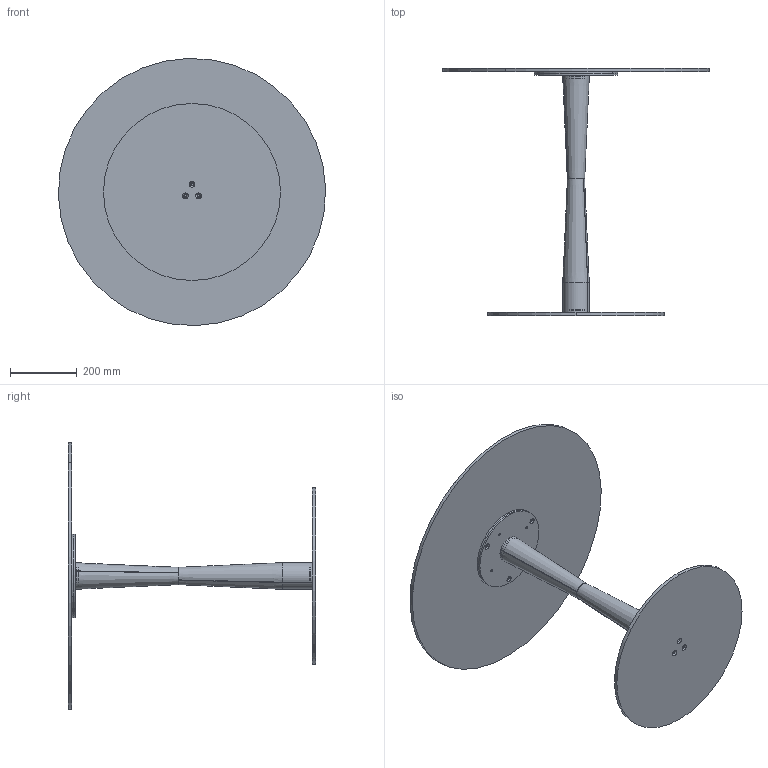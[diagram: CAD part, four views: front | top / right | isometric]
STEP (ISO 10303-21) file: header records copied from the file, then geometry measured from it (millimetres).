
FILE_DESCRIPTION (( 'STEP AP203' ), '1' );
FILE_NAME ('FI20G.STEP', '2024-08-08T08:01:20', ( '' ), ( '' ), 'SwSTEP 2.0', 'SolidWorks 2022', '' );
FILE_SCHEMA (( 'CONFIG_CONTROL_DESIGN' ));
Length unit declared in the file: millimetre
Products named in the file (10): FI20G; CBS000000BAS-00-BISTRO PIASTRA INFERIORE_D.530; P0000003-00-STAFFA DI FISSAGGIO DIAMETRO 250_P0000003-250mm normale; FIL000000_02-00-Tubo Conificato inferiore_tagliato; CBS200000PST-00-CONTROPIASTRA PER PIASTRA D.25cm GREZZO_250; FIL000000COL-01-FILU'' COLONNA CENTRALE; C1XCRMXX-00-piani Rotondi Cristallo_C02 D.80cm; CXXCRXX-00-Piani Rotondi in Cristallo CON PIASTRA_C02P PIANO CRISTALLO D.80cm; FIL000000_01-00-Tubo Conificato superiore_tagliato; FIL000000_03-00-Piastra per Tubi conificati FILU
Assembly tree (10 placements, depth 3):
  FI20G
    CBS000000BAS-00-BISTRO PIASTRA INFERIORE_D.530
    CBS200000PST-00-CONTROPIASTRA PER PIASTRA D.25cm GREZZO_250
    FIL000000COL-01-FILU'' COLONNA CENTRALE
      FIL000000_02-00-Tubo Conificato inferiore_tagliato
      FIL000000_01-00-Tubo Conificato superiore_tagliato
      FIL000000_03-00-Piastra per Tubi conificati FILU  x2
    CXXCRXX-00-Piani Rotondi in Cristallo CON PIASTRA_C02P PIANO CRISTALLO D.80cm
      C1XCRMXX-00-piani Rotondi Cristallo_C02 D.80cm
      P0000003-00-STAFFA DI FISSAGGIO DIAMETRO 250_P0000003-250mm normale
Bounding box: 799.61 x 741 x 799.61 mm (x, y, z)
Volume: 8100520.3 mm3; surface area: 2009398.4 mm2
Topology: 8 solids, 8 shells, 114 faces, 264 edges, 166 vertices
Faces by surface type: cylinder 64, cone 34, plane 16
Entity records: 4194 total; most frequent: DIRECTION 628, CARTESIAN_POINT 509, ORIENTED_EDGE 480, AXIS2_PLACEMENT_3D 269, EDGE_CURVE 240, CIRCLE 150, VERTEX_POINT 150, EDGE_LOOP 150
